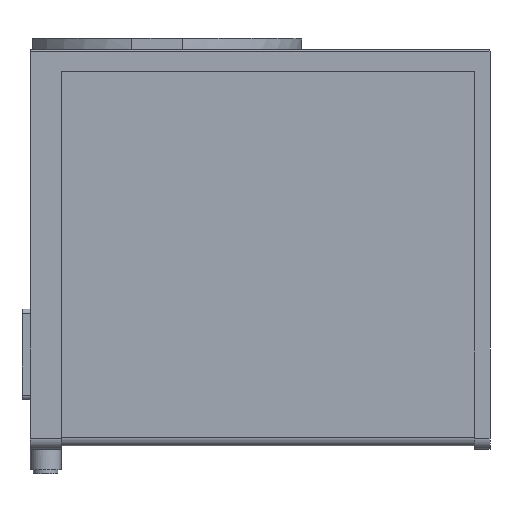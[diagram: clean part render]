
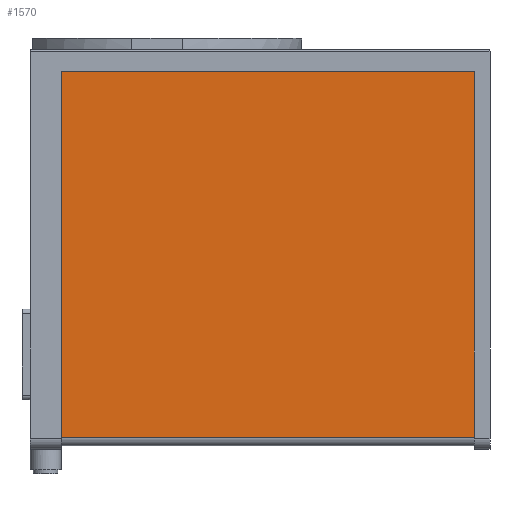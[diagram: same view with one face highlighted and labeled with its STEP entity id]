
A CAD part, front view. The second image highlights one B-rep face of the part: STEP entity #1570.
In plain terms, the highlighted planar face has unit normal (0, -1, 0).
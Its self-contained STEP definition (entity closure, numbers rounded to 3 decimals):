
#1570 = ADVANCED_FACE( '', ( #3951 ), #3952, .F. );
#3951 = FACE_OUTER_BOUND( '', #7526, .T. );
#3952 = PLANE( '', #7527 );
#7526 = EDGE_LOOP( '', ( #12651, #12652, #12653, #12654, #12655, #12656 ) );
#7527 = AXIS2_PLACEMENT_3D( '', #12657, #12658, #12659 );
#12651 = ORIENTED_EDGE( '', *, *, #19993, .T. );
#12652 = ORIENTED_EDGE( '', *, *, #20354, .T. );
#12653 = ORIENTED_EDGE( '', *, *, #19273, .T. );
#12654 = ORIENTED_EDGE( '', *, *, #20281, .T. );
#12655 = ORIENTED_EDGE( '', *, *, #20355, .T. );
#12656 = ORIENTED_EDGE( '', *, *, #19644, .T. );
#12657 = CARTESIAN_POINT( '', ( 115.74, -78.659, -123.122 ) );
#12658 = DIRECTION( '', ( 0., 1., 0. ) );
#12659 = DIRECTION( '', ( 1., 0., 0. ) );
#19273 = EDGE_CURVE( '', #22757, #22758, #22759, .T. );
#19644 = EDGE_CURVE( '', #22480, #23403, #23405, .T. );
#19993 = EDGE_CURVE( '', #23403, #23973, #23975, .T. );
#20281 = EDGE_CURVE( '', #22758, #24438, #24440, .T. );
#20354 = EDGE_CURVE( '', #23973, #22757, #24551, .T. );
#20355 = EDGE_CURVE( '', #24438, #22480, #24552, .T. );
#22480 = VERTEX_POINT( '', #27398 );
#22757 = VERTEX_POINT( '', #27907 );
#22758 = VERTEX_POINT( '', #27908 );
#22759 = LINE( '', #27909, #27910 );
#23403 = VERTEX_POINT( '', #29014 );
#23405 = LINE( '', #29016, #29017 );
#23973 = VERTEX_POINT( '', #29937 );
#23975 = LINE( '', #29939, #29940 );
#24438 = VERTEX_POINT( '', #30770 );
#24440 = LINE( '', #30773, #30774 );
#24551 = LINE( '', #30947, #30948 );
#24552 = LINE( '', #30949, #30950 );
#27398 = CARTESIAN_POINT( '', ( -73.66, -78.659, 43.73 ) );
#27907 = CARTESIAN_POINT( '', ( 115.74, -78.659, 43.73 ) );
#27908 = CARTESIAN_POINT( '', ( 115.74, -78.659, 45.23 ) );
#27909 = CARTESIAN_POINT( '', ( 115.74, -78.659, -123.122 ) );
#27910 = VECTOR( '', #35290, 1000. );
#29014 = CARTESIAN_POINT( '', ( -73.66, -78.659, -120.77 ) );
#29016 = CARTESIAN_POINT( '', ( -73.66, -78.659, -121.77 ) );
#29017 = VECTOR( '', #35806, 1000. );
#29937 = CARTESIAN_POINT( '', ( 115.74, -78.659, -120.77 ) );
#29939 = CARTESIAN_POINT( '', ( -73.66, -78.659, -120.77 ) );
#29940 = VECTOR( '', #36216, 1000. );
#30770 = CARTESIAN_POINT( '', ( -73.66, -78.659, 45.23 ) );
#30773 = CARTESIAN_POINT( '', ( 115.74, -78.659, 45.23 ) );
#30774 = VECTOR( '', #36602, 1000. );
#30947 = CARTESIAN_POINT( '', ( 115.74, -78.659, -123.122 ) );
#30948 = VECTOR( '', #36688, 1000. );
#30949 = CARTESIAN_POINT( '', ( -73.66, -78.659, -123.122 ) );
#30950 = VECTOR( '', #36689, 1000. );
#35290 = DIRECTION( '', ( 0., 0., 1. ) );
#35806 = DIRECTION( '', ( 0., 0., -1. ) );
#36216 = DIRECTION( '', ( 1., 0., 0. ) );
#36602 = DIRECTION( '', ( -1., 0., 0. ) );
#36688 = DIRECTION( '', ( 0., 0., 1. ) );
#36689 = DIRECTION( '', ( 0., 0., -1. ) );
